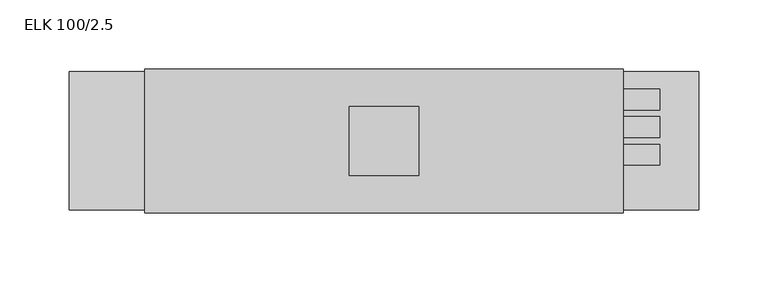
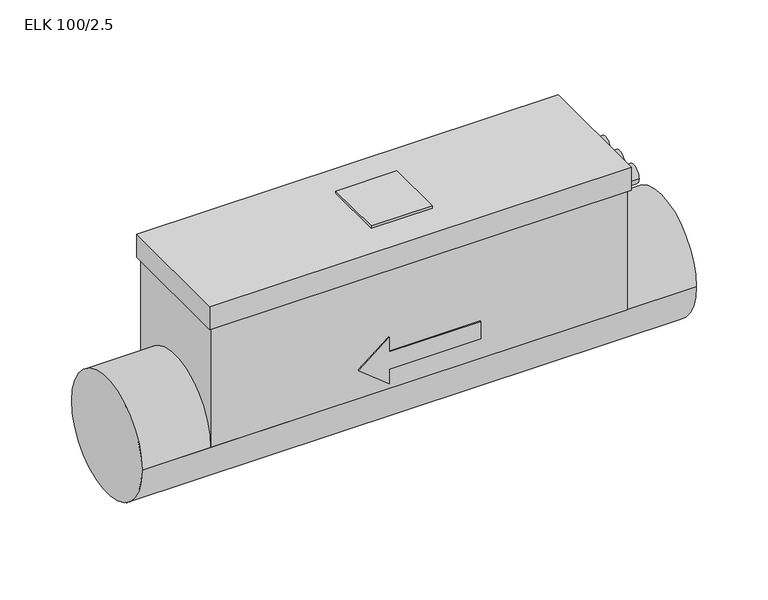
"""IFC4 building model written with IfcOpenShell, lengths in millimetres: proxy geometry, KORF_Нагреватель_Электрический_Круглый_ELK : ELK 100/2.5."""

from ifc_helpers import new_model, si_unit, point, frame, frame_2d, origin, place, context, project, spatial, polyline, circle_curve, trimmed, segment, composite_curve, outline, extrude, source, transform, mapped, element, save
from ifc_brep_helpers import plane_surface, cylinder_surface, advanced_brep


def elk_100_2_5_59d035f4(model_context):
    return source(origin(), model_context, "Body", "SolidModel", [
        extrude(outline(polyline([(252.5, 25.0), (252.5, -25.0), (202.5, -25.0), (202.5, 25.0), (252.5, 25.0)])), frame((0.0, 0.0, 124.0), z_axis=(0.0, 0.0, 1.0), x_axis=(1.0, 0.0, 0.0)), (0.0, 0.0, 1.0), 2.0),
        extrude(outline(composite_curve([segment(trimmed(circle_curve(frame_2d((-10.0, 84.0)), 7.5), [point((-17.5, 84.0))], [point((-2.5, 84.0))], False, "CARTESIAN"), True, "CONTINUOUS"), segment(trimmed(circle_curve(frame_2d((-10.0, 84.0)), 7.5), [point((-2.5, 84.0))], [point((-17.5, 84.0))], False, "CARTESIAN"), True, "CONTINUOUS")], self_intersect=False)), frame((398.5, 0.0, 0.0), z_axis=(1.0, 0.0, 0.0), x_axis=(0.0, 1.0, 0.0)), (0.0, 0.0, 1.0), 28.25),
        extrude(outline(composite_curve([segment(trimmed(circle_curve(frame_2d((10.0, 84.0)), 7.5), [point((2.5, 84.0))], [point((17.5, 84.0))], False, "CARTESIAN"), True, "CONTINUOUS"), segment(trimmed(circle_curve(frame_2d((10.0, 84.0)), 7.5), [point((17.5, 84.0))], [point((2.5, 84.0))], False, "CARTESIAN"), True, "CONTINUOUS")], self_intersect=False)), frame((398.5, 0.0, 0.0), z_axis=(1.0, 0.0, 0.0), x_axis=(0.0, 1.0, 0.0)), (0.0, 0.0, 1.0), 28.25),
        extrude(outline(composite_curve([segment(trimmed(circle_curve(frame_2d((30.0, 84.0)), 7.5), [point((22.5, 84.0))], [point((37.5, 84.0))], False, "CARTESIAN"), True, "CONTINUOUS"), segment(trimmed(circle_curve(frame_2d((30.0, 84.0)), 7.5), [point((37.5, 84.0))], [point((22.5, 84.0))], False, "CARTESIAN"), True, "CONTINUOUS")], self_intersect=False)), frame((398.5, 0.0, 0.0), z_axis=(1.0, 0.0, 0.0), x_axis=(0.0, 1.0, 0.0)), (0.0, 0.0, 1.0), 28.25),
        advanced_brep(
        [(400.5, 52.0, 104.0), (400.5, -52.0, 104.0), (54.5, -52.0, 104.0), (54.5, 52.0, 104.0), (398.5, 50.0, 104.0), (56.5, 50.0, 104.0), (56.5, -50.0, 104.0), (398.5, -50.0, 104.0), (400.5, 52.0, 124.0), (54.5, 52.0, 124.0), (54.5, -52.0, 124.0), (400.5, -52.0, 124.0), (398.5, 50.0, 0.0), (56.5, 50.0, 0.0), (202.5, 50.0, 45.0), (177.5, 50.0, 25.0), (202.5, 50.0, 5.0), (202.5, 50.0, 17.5), (277.5, 50.0, 17.5), (277.5, 50.0, 32.5), (202.5, 50.0, 32.5), (56.5, -50.0, 0.0), (398.5, -50.0, 0.0), (177.5, -50.0, 25.0), (202.5, -50.0, 45.0), (202.5, -50.0, 32.5), (277.5, -50.0, 32.5), (277.5, -50.0, 17.5), (202.5, -50.0, 17.5), (202.5, -50.0, 5.0), (455.0, -50.0, 0.0), (455.0, 50.0, 0.0), (0.0, -50.0, 0.0), (0.0, 50.0, 0.0), (202.5, -51.0, 45.0), (177.5, -51.0, 25.0), (202.5, -51.0, 5.0), (202.5, -51.0, 17.5), (277.5, -51.0, 17.5), (277.5, -51.0, 32.5), (202.5, -51.0, 32.5), (202.5, 51.0, 45.0), (202.5, 51.0, 32.5), (277.5, 51.0, 32.5), (277.5, 51.0, 17.5), (202.5, 51.0, 17.5), (202.5, 51.0, 5.0), (177.5, 51.0, 25.0)],
        [
            (0, 1),
            (1, 2),
            (2, 3),
            (3, 0),
            (4, 5),
            (5, 6),
            (6, 7),
            (7, 4),
            (8, 9),
            (9, 10),
            (10, 11),
            (11, 8),
            (3, 9),
            (8, 0),
            (2, 10),
            (1, 11),
            (4, 12),
            (12, 13),
            (13, 5),
            (14, 15),
            (15, 16),
            (16, 17),
            (17, 18),
            (18, 19),
            (19, 20),
            (20, 14),
            (13, 21, circle_curve(frame((56.5, 0.0, 0.0), z_axis=(1.0, 0.0, 0.0), x_axis=(0.0, 1.0, 0.0)), 50.0)),
            (21, 6),
            (21, 22),
            (22, 7),
            (23, 24),
            (24, 25),
            (25, 26),
            (26, 27),
            (27, 28),
            (28, 29),
            (29, 23),
            (22, 12, circle_curve(frame((398.5, 0.0, 0.0), z_axis=(-1.0, 0.0, 0.0), x_axis=(0.0, 1.0, 0.0)), 50.0)),
            (30, 31, circle_curve(frame((455.0, 0.0, 0.0), z_axis=(1.0, 0.0, 0.0), x_axis=(0.0, 1.0, 0.0)), 50.0)),
            (31, 30, circle_curve(frame((455.0, 0.0, 0.0), z_axis=(1.0, 0.0, 0.0), x_axis=(0.0, 1.0, 0.0)), 50.0)),
            (32, 33, circle_curve(frame((0.0, 0.0, 0.0), z_axis=(-1.0, 0.0, 0.0), x_axis=(0.0, 1.0, 0.0)), 50.0)),
            (33, 32, circle_curve(frame((0.0, 0.0, 0.0), z_axis=(-1.0, 0.0, 0.0), x_axis=(0.0, 1.0, 0.0)), 50.0)),
            (30, 22),
            (21, 32),
            (33, 13),
            (12, 31),
            (34, 35),
            (35, 36),
            (36, 37),
            (37, 38),
            (38, 39),
            (39, 40),
            (40, 34),
            (41, 42),
            (42, 43),
            (43, 44),
            (44, 45),
            (45, 46),
            (46, 47),
            (47, 41),
            (34, 24),
            (23, 35),
            (47, 15),
            (14, 41),
            (29, 36),
            (46, 16),
            (28, 37),
            (45, 17),
            (27, 38),
            (44, 18),
            (26, 39),
            (43, 19),
            (25, 40),
            (42, 20),
        ],
        [
            plane_surface(frame((54.5, 52.0, 104.0), z_axis=(0.0, 0.0, -1.0), x_axis=(1.0, 0.0, 0.0))),
            plane_surface(frame((54.5, 52.0, 124.0), z_axis=(0.0, 0.0, 1.0), x_axis=(-1.0, 0.0, 0.0))),
            plane_surface(frame((400.5, 52.0, 124.0), z_axis=(0.0, 1.0, 0.0), x_axis=(0.0, 0.0, -1.0))),
            plane_surface(frame((54.5, 52.0, 124.0), z_axis=(-1.0, 0.0, 0.0), x_axis=(0.0, 0.0, -1.0))),
            plane_surface(frame((54.5, -52.0, 124.0), z_axis=(0.0, -1.0, 0.0), x_axis=(0.0, 0.0, -1.0))),
            plane_surface(frame((400.5, -52.0, 124.0), z_axis=(1.0, 0.0, 0.0), x_axis=(0.0, 0.0, -1.0))),
            plane_surface(frame((398.5, 50.0, 124.0), z_axis=(0.0, 1.0, 0.0), x_axis=(0.0, 0.0, -1.0))),
            plane_surface(frame((56.5, 50.0, 124.0), z_axis=(-1.0, 0.0, 0.0), x_axis=(0.0, 0.0, -1.0))),
            plane_surface(frame((56.5, -50.0, 124.0), z_axis=(0.0, -1.0, 0.0), x_axis=(0.0, 0.0, -1.0))),
            plane_surface(frame((398.5, -50.0, 124.0), z_axis=(1.0, 0.0, 0.0), x_axis=(0.0, 0.0, -1.0))),
            plane_surface(frame((455.0, 50.0, 0.0), z_axis=(1.0, 0.0, 0.0), x_axis=(0.0, 0.0, 1.0))),
            plane_surface(frame((0.0, 50.0, 0.0), z_axis=(-1.0, 0.0, 0.0), x_axis=(0.0, 0.0, -1.0))),
            cylinder_surface(frame((0.0, 0.0, 0.0), z_axis=(1.0, 0.0, 0.0), x_axis=(0.0, 1.0, 0.0)), 50.0),
            plane_surface(frame((177.5, -51.0, 25.0), z_axis=(0.0, -1.0, 0.0), x_axis=(-0.7808688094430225, 0.0, -0.6246950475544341))),
            plane_surface(frame((177.5, 51.0, 25.0), z_axis=(0.0, 1.0, 0.0), x_axis=(0.7808688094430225, 0.0, 0.6246950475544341))),
            plane_surface(frame((202.5, -51.0, 45.0), z_axis=(-0.6246950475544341, 0.0, 0.7808688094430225), x_axis=(0.0, 1.0, 0.0))),
            plane_surface(frame((177.5, -51.0, 25.0), z_axis=(-0.6246950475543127, 0.0, -0.7808688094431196), x_axis=(0.0, 1.0, 0.0))),
            plane_surface(frame((202.5, -51.0, 5.0), z_axis=(1.0, 0.0, 0.0), x_axis=(0.0, 1.0, 0.0))),
            plane_surface(frame((202.5, -51.0, 17.5), z_axis=(0.0, 0.0, -1.0), x_axis=(0.0, 1.0, 0.0))),
            plane_surface(frame((277.5, -51.0, 17.5), z_axis=(1.0, 0.0, 0.0), x_axis=(0.0, 1.0, 0.0))),
            plane_surface(frame((277.5, -51.0, 32.5), z_axis=(0.0, 0.0, 1.0), x_axis=(0.0, 1.0, 0.0))),
            plane_surface(frame((202.5, -51.0, 32.5), z_axis=(1.0, 0.0, 0.0), x_axis=(0.0, 1.0, 0.0))),
        ],
        [
            (0, [[1, 2, 3, 4], [5, 6, 7, 8]]),
            (1, [[9, 10, 11, 12]]),
            (2, [[-4, 13, -9, 14]]),
            (3, [[-3, 15, -10, -13]]),
            (4, [[-2, 16, -11, -15]]),
            (5, [[-1, -14, -12, -16]]),
            (6, [[17, 18, 19, -5], [20, 21, 22, 23, 24, 25, 26]]),
            (7, [[-19, 27, 28, -6]]),
            (8, [[-28, 29, 30, -7], [31, 32, 33, 34, 35, 36, 37]]),
            (9, [[-17, -8, -30, 38]]),
            (10, [[39, 40]]),
            (11, [[41, 42]]),
            (12, [[-39, 43, -29, 44, -42, 45, -18, 46]]),
            (12, [[-40, -46, -38, -43]]),
            (12, [[-41, -44, -27, -45]]),
            (13, [[47, 48, 49, 50, 51, 52, 53]]),
            (14, [[54, 55, 56, 57, 58, 59, 60]]),
            (15, [[-47, 61, -31, 62]]),
            (15, [[-60, 63, -20, 64]]),
            (16, [[-48, -62, -37, 65]]),
            (16, [[-59, 66, -21, -63]]),
            (17, [[-49, -65, -36, 67]]),
            (17, [[-58, 68, -22, -66]]),
            (18, [[-50, -67, -35, 69]]),
            (18, [[-57, 70, -23, -68]]),
            (19, [[-51, -69, -34, 71]]),
            (19, [[-56, 72, -24, -70]]),
            (20, [[-52, -71, -33, 73]]),
            (20, [[-55, 74, -25, -72]]),
            (21, [[-53, -73, -32, -61]]),
            (21, [[-54, -64, -26, -74]]),
        ],
    ),
    ])


if __name__ == "__main__":
    model = new_model("IFC4")
    model_context = context("Model", 3, world=origin())
    ifc_project = project(units=[si_unit("LENGTHUNIT", "METRE", prefix="MILLI")], contexts=[model_context])
    site = spatial("IfcSite", under=ifc_project)
    building = spatial("IfcBuilding", under=site)
    placement = place(None, origin())
    elk_100_2_5_shape = elk_100_2_5_59d035f4(model_context)
    element("IfcBuildingElementProxy", 1, Name="KORF_Нагреватель_Электрический_Круглый_ELK : ELK 100/2.5", ObjectType="KORF_Нагреватель_Электрический_Круглый_ELK : ELK 100/2.5", at=placement, inside=building, context=model_context, shape_type="MappedRepresentation", body=[
        mapped(elk_100_2_5_shape, transform((0.0, 0.0, 0.0), x_axis=(1.0, 0.0, 0.0), y_axis=(0.0, 1.0, 0.0), z_axis=(0.0, 0.0, 1.0))),
    ])
    save(model, "model.ifc")
